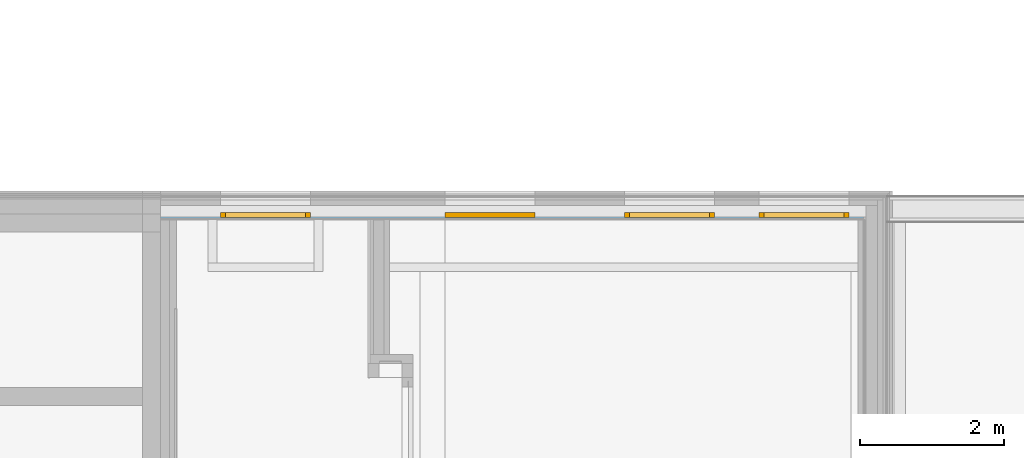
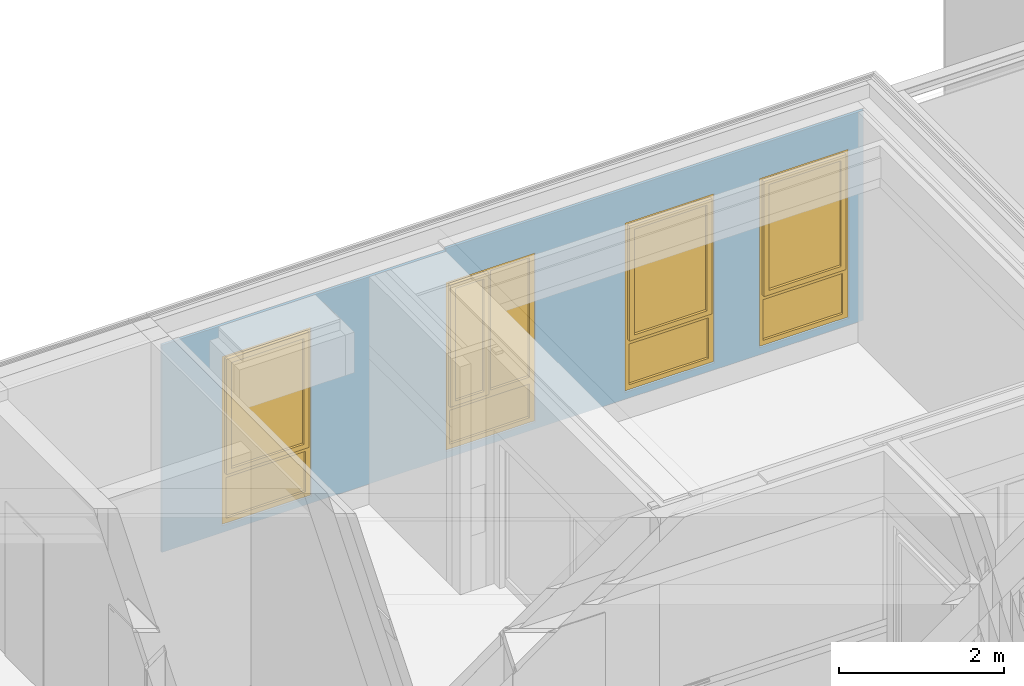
# One storey, part 118 of 207: 4 windows, 4 openings, plus 1 element that does not belong to this part.
"""IFC4 building model written with IfcOpenShell, lengths in metres."""

from ifc_helpers import new_model, entity, si_unit, converted_unit, derived_unit, frame, frame_2d, origin, origin_with_axes, place, context, subcontext, project, spatial, polyline, rectangle, outline, extrude, clip, bounded_halfspace, closed_shell, open_shell, surface_model, source, transform, mapped, material, type_object, element, fill, save


model = new_model("IFC4")

# Units and contexts
model_context = context("Model", 3, precision=1e-05, world=origin())
body_context = subcontext(model_context, "Body", "Model", "MODEL_VIEW")
ifc_project = project(units=[si_unit("LENGTHUNIT", "METRE"), si_unit("AREAUNIT", "SQUARE_METRE"), si_unit("VOLUMEUNIT", "CUBIC_METRE"), si_unit("MASSUNIT", "GRAM", prefix="KILO"), converted_unit("PLANEANGLEUNIT", "DEGREE", entity("IfcPlaneAngleMeasure", 0.0174532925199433), si_unit("PLANEANGLEUNIT", "RADIAN"), dimensions=[0, 0, 0, 0, 0, 0, 0]), derived_unit("THERMALTRANSMITTANCEUNIT", [(si_unit("POWERUNIT", "WATT"), 1), (si_unit("THERMODYNAMICTEMPERATUREUNIT", "KELVIN"), -1), (si_unit("LENGTHUNIT", "METRE"), -2)]), derived_unit("VOLUMETRICFLOWRATEUNIT", [(si_unit("LENGTHUNIT", "METRE"), 3), (converted_unit("TIMEUNIT", "hour", entity("IfcTimeMeasure", 3600.0), si_unit("TIMEUNIT", "SECOND"), dimensions=[0, 0, 1, 0, 0, 0, 0]), -1), (si_unit("LENGTHUNIT", "METRE"), -1)])], contexts=[model_context])

# Site, building, storey
site_placement = place(None, origin())
site = spatial("IfcSite", under=ifc_project, at=site_placement, Name="Psychiatrie Neubau Wunstorf", CompositionType="ELEMENT")
building_placement = place(site_placement, origin())
building = spatial("IfcBuilding", under=site, at=building_placement, Name="Neubau H2 Stationsgebäude", CompositionType="ELEMENT")
storey_placement = place(building_placement, frame((0.0, 0.0, -0.2)))
storey = spatial("IfcBuildingStorey", under=building, at=storey_placement, Name="H2 Ebene 0", CompositionType="ELEMENT", Elevation=-0.2)

# Wall, openings, windows
ifc_material = material(Name="WA-LB")
wall_placement = place(storey_placement, frame((58.1, 29.0639996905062, 0.5)))
wall = element("IfcWall", 1, at=wall_placement, inside=storey, material=ifc_material, context=body_context, shape_type="Clipping", body=[
    clip(extrude(rectangle(XDim=9.78900000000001, YDim=0.036, at=frame_2d((4.8945, 0.018), x_axis=(1.0, 0.0))), origin_with_axes(), (0.0, 0.0, 1.0), 3.1), bounded_halfspace(frame((1.98125000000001, 0.018, 3.06), z_axis=(0.0, 0.0, -1.0), x_axis=(-1.0, 0.0, 0.0)), True, origin_with_axes(), polyline([(3.96250000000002, 0.036), (0.0, 0.036), (0.0, 0.0), (3.96250000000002, 0.0), (3.96250000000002, 0.036)]))),
])
opening_1_placement = place(wall_placement, frame((9.58750000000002, 0.036, 0.1), z_axis=(0.0, -1.0, 0.0), x_axis=(0.0, 0.0, 1.0)))
opening_1 = element("IfcOpeningElement", 2, at=opening_1_placement, cuts=wall, Name="Fensteröffnung", ObjectType="Opening", context=body_context, shape_type="SweptSolid", body=[
    extrude(outline(polyline([(2.5, 1.25), (2.5, 0.0), (0.0, 0.0), (0.0, 1.25), (2.5, 1.25)])), origin_with_axes(), (0.0, 0.0, 1.0), 0.036),
])
opening_2_placement = place(wall_placement, frame((5.21250000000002, 0.036, 0.1), z_axis=(0.0, -1.0, 0.0), x_axis=(0.0, 0.0, 1.0)))
opening_2 = element("IfcOpeningElement", 3, at=opening_2_placement, cuts=wall, Name="Fensteröffnung", ObjectType="Opening", context=body_context, shape_type="SweptSolid", body=[
    extrude(outline(polyline([(2.5, 1.25), (2.5, 0.0), (0.0, 0.0), (0.0, 1.25), (2.5, 1.25)])), origin_with_axes(), (0.0, 0.0, 1.0), 0.036),
])
opening_3_placement = place(wall_placement, frame((2.08750000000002, 0.036, 0.1), z_axis=(0.0, -1.0, 0.0), x_axis=(0.0, 0.0, 1.0)))
opening_3 = element("IfcOpeningElement", 4, at=opening_3_placement, cuts=wall, Name="Fensteröffnung", ObjectType="Opening", context=body_context, shape_type="SweptSolid", body=[
    extrude(outline(polyline([(2.5, 1.25), (2.5, 0.0), (0.0, 0.0), (0.0, 1.25), (2.5, 1.25)])), origin_with_axes(), (0.0, 0.0, 1.0), 0.036),
])
opening_4_placement = place(wall_placement, frame((7.71250000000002, 0.036, 0.1), z_axis=(0.0, -1.0, 0.0), x_axis=(0.0, 0.0, 1.0)))
opening_4 = element("IfcOpeningElement", 5, at=opening_4_placement, cuts=wall, Name="Fensteröffnung", ObjectType="Opening", context=body_context, shape_type="SweptSolid", body=[
    extrude(outline(polyline([(2.5, 1.25), (2.5, 0.0), (0.0, 0.0), (0.0, 1.25), (2.5, 1.25)])), origin_with_axes(), (0.0, 0.0, 1.0), 0.036),
])
window_type_1 = type_object("IfcWindowType", Name="Fenster", ParameterTakesPrecedence=False, PartitioningType="DOUBLE_PANEL_HORIZONTAL", PredefinedType="WINDOW")
shared_shape_1 = source(origin_with_axes(), body_context, "Body", "SurfaceModel", [
    surface_model("IfcShellBasedSurfaceModel", [(1.25, 0.0, 2.5), (1.25, 0.0, 0.0), (1.18, 0.0, 0.0), (1.18, 0.0, 2.5), (1.25, 0.0699999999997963, 0.0), (1.25, 0.0699999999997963, 2.5), (1.18, 0.0699999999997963, 2.5), (1.18, 0.0699999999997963, 0.0)], [closed_shell([[[0, 1, 2, 3]], [[4, 5, 6, 7]], [[1, 0, 5, 4]], [[2, 1, 4, 7]], [[3, 2, 7, 6]], [[0, 3, 6, 5]]], orient=[[False], [False], [False], [False], [False], [False]])]),
    surface_model("IfcShellBasedSurfaceModel", [(0.07, 0.0, 2.5), (0.07, 0.0, 0.0), (0.0, 0.0, 0.0), (0.0, 0.0, 2.5), (0.07, 0.0699999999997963, 0.0), (0.07, 0.0699999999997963, 2.5), (0.0, 0.0699999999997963, 2.5), (0.0, 0.0699999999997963, 0.0)], [closed_shell([[[0, 1, 2, 3]], [[4, 5, 6, 7]], [[1, 0, 5, 4]], [[2, 1, 4, 7]], [[3, 2, 7, 6]], [[0, 3, 6, 5]]], orient=[[False], [False], [False], [False], [False], [False]])]),
    surface_model("IfcShellBasedSurfaceModel", [(1.18, 0.0, 0.07), (1.18, 0.0, 0.0), (0.07, 0.0, 0.0), (0.07, 0.0, 0.07), (1.18, 0.0699999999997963, 0.0), (1.18, 0.0699999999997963, 0.07), (0.07, 0.0699999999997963, 0.07), (0.07, 0.0699999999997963, 0.0)], [closed_shell([[[0, 1, 2, 3]], [[4, 5, 6, 7]], [[1, 0, 5, 4]], [[2, 1, 4, 7]], [[3, 2, 7, 6]], [[0, 3, 6, 5]]], orient=[[False], [False], [False], [False], [False], [False]])]),
    surface_model("IfcShellBasedSurfaceModel", [(1.18, 0.0, 2.5), (1.18, 0.0, 2.43), (0.07, 0.0, 2.43), (0.07, 0.0, 2.5), (1.18, 0.0699999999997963, 2.43), (1.18, 0.0699999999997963, 2.5), (0.07, 0.0699999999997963, 2.5), (0.07, 0.0699999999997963, 2.43)], [closed_shell([[[0, 1, 2, 3]], [[4, 5, 6, 7]], [[1, 0, 5, 4]], [[2, 1, 4, 7]], [[3, 2, 7, 6]], [[0, 3, 6, 5]]], orient=[[False], [False], [False], [False], [False], [False]])]),
    surface_model("IfcShellBasedSurfaceModel", [(1.18, 0.0, 0.77), (1.18, 0.0, 0.67), (0.07, 0.0, 0.67), (0.07, 0.0, 0.77), (1.18, 0.0699999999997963, 0.67), (1.18, 0.0699999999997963, 0.77), (0.07, 0.0699999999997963, 0.77), (0.07, 0.0699999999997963, 0.67)], [closed_shell([[[0, 1, 2, 3]], [[4, 5, 6, 7]], [[1, 0, 5, 4]], [[2, 1, 4, 7]], [[3, 2, 7, 6]], [[0, 3, 6, 5]]], orient=[[False], [False], [False], [False], [False], [False]])]),
    surface_model("IfcShellBasedSurfaceModel", [(1.18, 0.0349999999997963, 0.07), (0.07, 0.0349999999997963, 0.07), (0.07, 0.0349999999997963, 0.67), (1.18, 0.0349999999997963, 0.67)], [open_shell([[[0, 1, 2, 3]]], orient=[[False]])]),
    surface_model("IfcShellBasedSurfaceModel", [(1.2, 0.0499999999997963, 2.45), (1.2, 0.0499999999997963, 0.75), (1.13, 0.0499999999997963, 0.75), (1.13, 0.0499999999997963, 2.45), (1.2, 0.119999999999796, 0.75), (1.2, 0.119999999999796, 2.45), (1.13, 0.119999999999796, 2.45), (1.13, 0.119999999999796, 0.75)], [closed_shell([[[0, 1, 2, 3]], [[4, 5, 6, 7]], [[1, 0, 5, 4]], [[2, 1, 4, 7]], [[3, 2, 7, 6]], [[0, 3, 6, 5]]], orient=[[False], [False], [False], [False], [False], [False]])]),
    surface_model("IfcShellBasedSurfaceModel", [(0.12, 0.0499999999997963, 2.45), (0.12, 0.0499999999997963, 0.75), (0.05, 0.0499999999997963, 0.75), (0.05, 0.0499999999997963, 2.45), (0.12, 0.119999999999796, 0.75), (0.12, 0.119999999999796, 2.45), (0.05, 0.119999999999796, 2.45), (0.05, 0.119999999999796, 0.75)], [closed_shell([[[0, 1, 2, 3]], [[4, 5, 6, 7]], [[1, 0, 5, 4]], [[2, 1, 4, 7]], [[3, 2, 7, 6]], [[0, 3, 6, 5]]], orient=[[False], [False], [False], [False], [False], [False]])]),
    surface_model("IfcShellBasedSurfaceModel", [(1.13, 0.0499999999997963, 0.82), (1.13, 0.0499999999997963, 0.75), (0.12, 0.0499999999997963, 0.75), (0.12, 0.0499999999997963, 0.82), (1.13, 0.119999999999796, 0.75), (1.13, 0.119999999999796, 0.82), (0.12, 0.119999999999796, 0.82), (0.12, 0.119999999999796, 0.75)], [closed_shell([[[0, 1, 2, 3]], [[4, 5, 6, 7]], [[1, 0, 5, 4]], [[2, 1, 4, 7]], [[3, 2, 7, 6]], [[0, 3, 6, 5]]], orient=[[False], [False], [False], [False], [False], [False]])]),
    surface_model("IfcShellBasedSurfaceModel", [(1.13, 0.0499999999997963, 2.45), (1.13, 0.0499999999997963, 2.38), (0.12, 0.0499999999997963, 2.38), (0.12, 0.0499999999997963, 2.45), (1.13, 0.119999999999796, 2.38), (1.13, 0.119999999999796, 2.45), (0.12, 0.119999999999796, 2.45), (0.12, 0.119999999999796, 2.38)], [closed_shell([[[0, 1, 2, 3]], [[4, 5, 6, 7]], [[1, 0, 5, 4]], [[2, 1, 4, 7]], [[3, 2, 7, 6]], [[0, 3, 6, 5]]], orient=[[False], [False], [False], [False], [False], [False]])]),
    surface_model("IfcShellBasedSurfaceModel", [(1.13, 0.0849999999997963, 0.82), (0.12, 0.0849999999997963, 0.82), (0.12, 0.0849999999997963, 2.38), (1.13, 0.0849999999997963, 2.38)], [open_shell([[[0, 1, 2, 3]]], orient=[[False]])]),
])
window_1_placement = place(opening_1_placement, frame((0.0, 0.0, -0.064), z_axis=(1.0, 0.0, 0.0), x_axis=(0.0, 1.0, 0.0)))
window_1 = element("IfcWindow", 6, at=window_1_placement, inside=storey, type_object=window_type_1, Name="Fenster", OverallHeight=2.5, OverallWidth=1.25, context=body_context, shape_type="MappedRepresentation", body=[
    mapped(shared_shape_1, transform((0.0, 0.0, 0.0), x_axis=(1.0, 0.0, 0.0), y_axis=(0.0, 1.0, 0.0), z_axis=(0.0, 0.0, 1.0), scale=1.0)),
])
fill(opening_1, window_1)
shared_shape_2 = source(origin_with_axes(), body_context, "Body", "SurfaceModel", [
    surface_model("IfcShellBasedSurfaceModel", [(0.0, 0.0, 2.5), (0.07, 0.0, 2.5), (0.07, 0.0, 0.0), (0.0, 0.0, 0.0), (0.0, 0.0700000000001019, 0.0), (0.07, 0.0700000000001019, 0.0), (0.07, 0.0700000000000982, 2.5), (0.0, 0.0700000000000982, 2.5)], [closed_shell([[[0, 1, 2, 3]], [[4, 5, 6, 7]], [[3, 4, 7, 0]], [[2, 5, 4, 3]], [[1, 6, 5, 2]], [[0, 7, 6, 1]]], orient=[[False], [False], [False], [False], [False], [False]])]),
    surface_model("IfcShellBasedSurfaceModel", [(1.17999999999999, 0.0, 2.5), (1.24999999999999, 0.0, 2.5), (1.24999999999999, 0.0, 0.0), (1.17999999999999, 0.0, 0.0), (1.17999999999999, 0.0700000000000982, 0.0), (1.24999999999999, 0.0700000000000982, 0.0), (1.24999999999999, 0.0700000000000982, 2.5), (1.17999999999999, 0.0700000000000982, 2.5)], [closed_shell([[[0, 1, 2, 3]], [[4, 5, 6, 7]], [[3, 4, 7, 0]], [[2, 5, 4, 3]], [[1, 6, 5, 2]], [[0, 7, 6, 1]]], orient=[[False], [False], [False], [False], [False], [False]])]),
    surface_model("IfcShellBasedSurfaceModel", [(0.07, 0.0, 0.07), (1.17999999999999, 0.0, 0.07), (1.17999999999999, 0.0, 0.0), (0.07, 0.0, 0.0), (0.07, 0.0700000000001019, 0.0), (1.17999999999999, 0.0700000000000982, 0.0), (1.17999999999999, 0.0700000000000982, 0.07), (0.07, 0.0700000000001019, 0.07)], [closed_shell([[[0, 1, 2, 3]], [[4, 5, 6, 7]], [[3, 4, 7, 0]], [[2, 5, 4, 3]], [[1, 6, 5, 2]], [[0, 7, 6, 1]]], orient=[[False], [False], [False], [False], [False], [False]])]),
    surface_model("IfcShellBasedSurfaceModel", [(0.07, 0.0, 2.5), (1.17999999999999, 0.0, 2.5), (1.17999999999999, 0.0, 2.43), (0.07, 0.0, 2.43), (0.07, 0.0700000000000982, 2.43), (1.17999999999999, 0.0700000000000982, 2.43), (1.17999999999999, 0.0700000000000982, 2.5), (0.07, 0.0700000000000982, 2.5)], [closed_shell([[[0, 1, 2, 3]], [[4, 5, 6, 7]], [[3, 4, 7, 0]], [[2, 5, 4, 3]], [[1, 6, 5, 2]], [[0, 7, 6, 1]]], orient=[[False], [False], [False], [False], [False], [False]])]),
    surface_model("IfcShellBasedSurfaceModel", [(0.07, 0.0, 0.67), (1.17999999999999, 0.0, 0.67), (1.17999999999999, 0.0, 0.57), (0.07, 0.0, 0.57), (0.07, 0.0700000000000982, 0.57), (1.17999999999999, 0.0700000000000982, 0.57), (1.17999999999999, 0.0700000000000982, 0.67), (0.07, 0.0700000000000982, 0.67)], [closed_shell([[[0, 1, 2, 3]], [[4, 5, 6, 7]], [[3, 4, 7, 0]], [[2, 5, 4, 3]], [[1, 6, 5, 2]], [[0, 7, 6, 1]]], orient=[[False], [False], [False], [False], [False], [False]])]),
    surface_model("IfcShellBasedSurfaceModel", [(0.07, 0.0350000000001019, 0.07), (0.07, 0.0350000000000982, 0.57), (1.17999999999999, 0.0350000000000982, 0.57), (1.17999999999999, 0.0350000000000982, 0.07)], [open_shell([[[0, 1, 2, 3]]], orient=[[False]])]),
    surface_model("IfcShellBasedSurfaceModel", [(0.57, 0.0, 2.43), (0.64, 0.0, 2.43), (0.64, 0.0, 0.67), (0.57, 0.0, 0.67), (0.57, 0.0700000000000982, 0.67), (0.64, 0.0700000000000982, 0.67), (0.64, 0.0700000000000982, 2.43), (0.57, 0.0700000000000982, 2.43)], [closed_shell([[[0, 1, 2, 3]], [[4, 5, 6, 7]], [[3, 4, 7, 0]], [[2, 5, 4, 3]], [[1, 6, 5, 2]], [[0, 7, 6, 1]]], orient=[[False], [False], [False], [False], [False], [False]])]),
    surface_model("IfcShellBasedSurfaceModel", [(0.05, -0.0499999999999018, 2.45), (0.12, -0.0499999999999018, 2.45), (0.12, -0.0499999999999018, 0.65), (0.05, -0.0499999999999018, 0.65), (0.05, 0.0200000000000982, 0.65), (0.12, 0.0200000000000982, 0.65), (0.12, 0.0200000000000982, 2.45), (0.05, 0.0200000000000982, 2.45)], [closed_shell([[[0, 1, 2, 3]], [[4, 5, 6, 7]], [[3, 4, 7, 0]], [[2, 5, 4, 3]], [[1, 6, 5, 2]], [[0, 7, 6, 1]]], orient=[[False], [False], [False], [False], [False], [False]])]),
    surface_model("IfcShellBasedSurfaceModel", [(0.52, -0.0499999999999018, 2.45), (0.59, -0.0499999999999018, 2.45), (0.59, -0.0499999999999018, 0.65), (0.52, -0.0499999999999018, 0.65), (0.52, 0.0200000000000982, 0.65), (0.59, 0.0200000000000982, 0.65), (0.59, 0.0200000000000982, 2.45), (0.52, 0.0200000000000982, 2.45)], [closed_shell([[[0, 1, 2, 3]], [[4, 5, 6, 7]], [[3, 4, 7, 0]], [[2, 5, 4, 3]], [[1, 6, 5, 2]], [[0, 7, 6, 1]]], orient=[[False], [False], [False], [False], [False], [False]])]),
    surface_model("IfcShellBasedSurfaceModel", [(0.12, -0.0499999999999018, 0.72), (0.52, -0.0499999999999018, 0.72), (0.52, -0.0499999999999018, 0.65), (0.12, -0.0499999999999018, 0.65), (0.12, 0.0200000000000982, 0.65), (0.52, 0.0200000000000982, 0.65), (0.52, 0.0200000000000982, 0.72), (0.12, 0.0200000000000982, 0.72)], [closed_shell([[[0, 1, 2, 3]], [[4, 5, 6, 7]], [[3, 4, 7, 0]], [[2, 5, 4, 3]], [[1, 6, 5, 2]], [[0, 7, 6, 1]]], orient=[[False], [False], [False], [False], [False], [False]])]),
    surface_model("IfcShellBasedSurfaceModel", [(0.12, -0.0499999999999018, 2.45), (0.52, -0.0499999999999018, 2.45), (0.52, -0.0499999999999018, 2.38), (0.12, -0.0499999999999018, 2.38), (0.12, 0.0200000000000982, 2.38), (0.52, 0.0200000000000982, 2.38), (0.52, 0.0200000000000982, 2.45), (0.12, 0.0200000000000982, 2.45)], [closed_shell([[[0, 1, 2, 3]], [[4, 5, 6, 7]], [[3, 4, 7, 0]], [[2, 5, 4, 3]], [[1, 6, 5, 2]], [[0, 7, 6, 1]]], orient=[[False], [False], [False], [False], [False], [False]])]),
    surface_model("IfcShellBasedSurfaceModel", [(0.64, 0.0350000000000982, 0.67), (0.64, 0.0350000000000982, 2.43), (1.17999999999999, 0.0350000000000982, 2.43), (1.17999999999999, 0.0350000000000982, 0.67)], [open_shell([[[0, 1, 2, 3]]], orient=[[False]])]),
    surface_model("IfcShellBasedSurfaceModel", [(0.12, -0.0149999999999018, 0.72), (0.12, -0.0149999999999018, 2.38), (0.52, -0.0149999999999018, 2.38), (0.52, -0.0149999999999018, 0.72)], [open_shell([[[0, 1, 2, 3]]], orient=[[False]])]),
])
window_2_placement = place(opening_2_placement, frame((0.0, 1.25, 0.006), z_axis=(1.0, 0.0, 0.0), x_axis=(0.0, -1.0, 0.0)))
window_2 = element("IfcWindow", 7, at=window_2_placement, inside=storey, Name="Fenster", OverallHeight=2.5, OverallWidth=1.25, PartitioningType="USERDEFINED", PredefinedType="WINDOW", context=body_context, shape_type="MappedRepresentation", body=[
    mapped(shared_shape_2, transform((0.0, 0.0, 0.0), x_axis=(1.0, 0.0, 0.0), y_axis=(0.0, 1.0, 0.0), z_axis=(0.0, 0.0, 1.0), scale=1.0)),
])
fill(opening_2, window_2)
window_type_2 = type_object("IfcWindowType", Name="Fenster", ParameterTakesPrecedence=False, PartitioningType="DOUBLE_PANEL_HORIZONTAL", PredefinedType="WINDOW")
shared_shape_3 = source(origin_with_axes(), body_context, "Body", "SurfaceModel", [
    surface_model("IfcShellBasedSurfaceModel", [(1.25, 0.0, 2.5), (1.25, 0.0, 0.0), (1.18, 0.0, 0.0), (1.18, 0.0, 2.5), (1.25, 0.0699999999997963, 0.0), (1.25, 0.0699999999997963, 2.5), (1.18, 0.0699999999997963, 2.5), (1.18, 0.0699999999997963, 0.0)], [closed_shell([[[0, 1, 2, 3]], [[4, 5, 6, 7]], [[1, 0, 5, 4]], [[2, 1, 4, 7]], [[3, 2, 7, 6]], [[0, 3, 6, 5]]], orient=[[False], [False], [False], [False], [False], [False]])]),
    surface_model("IfcShellBasedSurfaceModel", [(0.07, 0.0, 2.5), (0.07, 0.0, 0.0), (0.0, 0.0, 0.0), (0.0, 0.0, 2.5), (0.07, 0.0699999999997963, 0.0), (0.07, 0.0699999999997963, 2.5), (0.0, 0.0699999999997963, 2.5), (0.0, 0.0699999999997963, 0.0)], [closed_shell([[[0, 1, 2, 3]], [[4, 5, 6, 7]], [[1, 0, 5, 4]], [[2, 1, 4, 7]], [[3, 2, 7, 6]], [[0, 3, 6, 5]]], orient=[[False], [False], [False], [False], [False], [False]])]),
    surface_model("IfcShellBasedSurfaceModel", [(1.18, 0.0, 0.07), (1.18, 0.0, 0.0), (0.07, 0.0, 0.0), (0.07, 0.0, 0.07), (1.18, 0.0699999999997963, 0.0), (1.18, 0.0699999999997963, 0.07), (0.07, 0.0699999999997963, 0.07), (0.07, 0.0699999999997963, 0.0)], [closed_shell([[[0, 1, 2, 3]], [[4, 5, 6, 7]], [[1, 0, 5, 4]], [[2, 1, 4, 7]], [[3, 2, 7, 6]], [[0, 3, 6, 5]]], orient=[[False], [False], [False], [False], [False], [False]])]),
    surface_model("IfcShellBasedSurfaceModel", [(1.18, 0.0, 2.5), (1.18, 0.0, 2.43), (0.07, 0.0, 2.43), (0.07, 0.0, 2.5), (1.18, 0.0699999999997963, 2.43), (1.18, 0.0699999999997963, 2.5), (0.07, 0.0699999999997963, 2.5), (0.07, 0.0699999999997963, 2.43)], [closed_shell([[[0, 1, 2, 3]], [[4, 5, 6, 7]], [[1, 0, 5, 4]], [[2, 1, 4, 7]], [[3, 2, 7, 6]], [[0, 3, 6, 5]]], orient=[[False], [False], [False], [False], [False], [False]])]),
    surface_model("IfcShellBasedSurfaceModel", [(1.18, 0.0, 0.77), (1.18, 0.0, 0.67), (0.07, 0.0, 0.67), (0.07, 0.0, 0.77), (1.18, 0.0699999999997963, 0.67), (1.18, 0.0699999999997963, 0.77), (0.07, 0.0699999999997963, 0.77), (0.07, 0.0699999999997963, 0.67)], [closed_shell([[[0, 1, 2, 3]], [[4, 5, 6, 7]], [[1, 0, 5, 4]], [[2, 1, 4, 7]], [[3, 2, 7, 6]], [[0, 3, 6, 5]]], orient=[[False], [False], [False], [False], [False], [False]])]),
    surface_model("IfcShellBasedSurfaceModel", [(1.18, 0.0349999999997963, 0.07), (0.07, 0.0349999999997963, 0.07), (0.07, 0.0349999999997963, 0.67), (1.18, 0.0349999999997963, 0.67)], [open_shell([[[0, 1, 2, 3]]], orient=[[False]])]),
    surface_model("IfcShellBasedSurfaceModel", [(1.2, 0.0499999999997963, 2.45), (1.2, 0.0499999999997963, 0.75), (1.13, 0.0499999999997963, 0.75), (1.13, 0.0499999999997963, 2.45), (1.2, 0.119999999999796, 0.75), (1.2, 0.119999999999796, 2.45), (1.13, 0.119999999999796, 2.45), (1.13, 0.119999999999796, 0.75)], [closed_shell([[[0, 1, 2, 3]], [[4, 5, 6, 7]], [[1, 0, 5, 4]], [[2, 1, 4, 7]], [[3, 2, 7, 6]], [[0, 3, 6, 5]]], orient=[[False], [False], [False], [False], [False], [False]])]),
    surface_model("IfcShellBasedSurfaceModel", [(0.12, 0.0499999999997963, 2.45), (0.12, 0.0499999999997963, 0.75), (0.05, 0.0499999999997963, 0.75), (0.05, 0.0499999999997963, 2.45), (0.12, 0.119999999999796, 0.75), (0.12, 0.119999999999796, 2.45), (0.05, 0.119999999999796, 2.45), (0.05, 0.119999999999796, 0.75)], [closed_shell([[[0, 1, 2, 3]], [[4, 5, 6, 7]], [[1, 0, 5, 4]], [[2, 1, 4, 7]], [[3, 2, 7, 6]], [[0, 3, 6, 5]]], orient=[[False], [False], [False], [False], [False], [False]])]),
    surface_model("IfcShellBasedSurfaceModel", [(1.13, 0.0499999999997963, 0.82), (1.13, 0.0499999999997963, 0.75), (0.12, 0.0499999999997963, 0.75), (0.12, 0.0499999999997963, 0.82), (1.13, 0.119999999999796, 0.75), (1.13, 0.119999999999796, 0.82), (0.12, 0.119999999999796, 0.82), (0.12, 0.119999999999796, 0.75)], [closed_shell([[[0, 1, 2, 3]], [[4, 5, 6, 7]], [[1, 0, 5, 4]], [[2, 1, 4, 7]], [[3, 2, 7, 6]], [[0, 3, 6, 5]]], orient=[[False], [False], [False], [False], [False], [False]])]),
    surface_model("IfcShellBasedSurfaceModel", [(1.13, 0.0499999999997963, 2.45), (1.13, 0.0499999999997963, 2.38), (0.12, 0.0499999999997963, 2.38), (0.12, 0.0499999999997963, 2.45), (1.13, 0.119999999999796, 2.38), (1.13, 0.119999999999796, 2.45), (0.12, 0.119999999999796, 2.45), (0.12, 0.119999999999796, 2.38)], [closed_shell([[[0, 1, 2, 3]], [[4, 5, 6, 7]], [[1, 0, 5, 4]], [[2, 1, 4, 7]], [[3, 2, 7, 6]], [[0, 3, 6, 5]]], orient=[[False], [False], [False], [False], [False], [False]])]),
    surface_model("IfcShellBasedSurfaceModel", [(1.13, 0.0849999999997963, 0.82), (0.12, 0.0849999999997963, 0.82), (0.12, 0.0849999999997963, 2.38), (1.13, 0.0849999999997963, 2.38)], [open_shell([[[0, 1, 2, 3]]], orient=[[False]])]),
])
window_3_placement = place(opening_3_placement, frame((0.0, 0.0, -0.064), z_axis=(1.0, 0.0, 0.0), x_axis=(0.0, 1.0, 0.0)))
window_3 = element("IfcWindow", 8, at=window_3_placement, inside=storey, type_object=window_type_2, Name="Fenster", OverallHeight=2.5, OverallWidth=1.25, context=body_context, shape_type="MappedRepresentation", body=[
    mapped(shared_shape_3, transform((0.0, 0.0, 0.0), x_axis=(1.0, 0.0, 0.0), y_axis=(0.0, 1.0, 0.0), z_axis=(0.0, 0.0, 1.0), scale=1.0)),
])
fill(opening_3, window_3)
window_type_3 = type_object("IfcWindowType", Name="Fenster", ParameterTakesPrecedence=False, PartitioningType="DOUBLE_PANEL_HORIZONTAL", PredefinedType="WINDOW")
shared_shape_4 = source(origin_with_axes(), body_context, "Body", "SurfaceModel", [
    surface_model("IfcShellBasedSurfaceModel", [(0.0, 0.07, 2.5), (0.0, 0.07, 0.0), (0.07, 0.07, 0.0), (0.07, 0.07, 2.5), (0.0, 0.0, 0.0), (0.0, 0.0, 2.5), (0.07, 0.0, 2.5), (0.07, 0.0, 0.0)], [closed_shell([[[0, 1, 2, 3]], [[4, 5, 6, 7]], [[1, 0, 5, 4]], [[2, 1, 4, 7]], [[3, 2, 7, 6]], [[0, 3, 6, 5]]], orient=[[False], [False], [False], [False], [False], [False]])]),
    surface_model("IfcShellBasedSurfaceModel", [(1.18, 0.07, 2.5), (1.18, 0.07, 0.0), (1.25, 0.07, 0.0), (1.25, 0.07, 2.5), (1.18, 0.0, 0.0), (1.18, 0.0, 2.5), (1.25, 0.0, 2.5), (1.25, 0.0, 0.0)], [closed_shell([[[0, 1, 2, 3]], [[4, 5, 6, 7]], [[1, 0, 5, 4]], [[2, 1, 4, 7]], [[3, 2, 7, 6]], [[0, 3, 6, 5]]], orient=[[False], [False], [False], [False], [False], [False]])]),
    surface_model("IfcShellBasedSurfaceModel", [(0.07, 0.07, 0.07), (0.07, 0.07, 0.0), (1.18, 0.07, 0.0), (1.18, 0.07, 0.07), (0.07, 0.0, 0.0), (0.07, 0.0, 0.07), (1.18, 0.0, 0.07), (1.18, 0.0, 0.0)], [closed_shell([[[0, 1, 2, 3]], [[4, 5, 6, 7]], [[1, 0, 5, 4]], [[2, 1, 4, 7]], [[3, 2, 7, 6]], [[0, 3, 6, 5]]], orient=[[False], [False], [False], [False], [False], [False]])]),
    surface_model("IfcShellBasedSurfaceModel", [(0.07, 0.07, 2.5), (0.07, 0.07, 2.43), (1.18, 0.07, 2.43), (1.18, 0.07, 2.5), (0.07, 0.0, 2.43), (0.07, 0.0, 2.5), (1.18, 0.0, 2.5), (1.18, 0.0, 2.43)], [closed_shell([[[0, 1, 2, 3]], [[4, 5, 6, 7]], [[1, 0, 5, 4]], [[2, 1, 4, 7]], [[3, 2, 7, 6]], [[0, 3, 6, 5]]], orient=[[False], [False], [False], [False], [False], [False]])]),
    surface_model("IfcShellBasedSurfaceModel", [(0.07, 0.07, 0.77), (0.07, 0.07, 0.67), (1.18, 0.07, 0.67), (1.18, 0.07, 0.77), (0.07, 0.0, 0.67), (0.07, 0.0, 0.77), (1.18, 0.0, 0.77), (1.18, 0.0, 0.67)], [closed_shell([[[0, 1, 2, 3]], [[4, 5, 6, 7]], [[1, 0, 5, 4]], [[2, 1, 4, 7]], [[3, 2, 7, 6]], [[0, 3, 6, 5]]], orient=[[False], [False], [False], [False], [False], [False]])]),
    surface_model("IfcShellBasedSurfaceModel", [(0.07, 0.035, 0.07), (1.18, 0.035, 0.07), (1.18, 0.035, 0.67), (0.07, 0.035, 0.67)], [open_shell([[[0, 1, 2, 3]]], orient=[[False]])]),
    surface_model("IfcShellBasedSurfaceModel", [(0.05, 0.12, 2.45), (0.05, 0.12, 0.75), (0.12, 0.12, 0.75), (0.12, 0.12, 2.45), (0.05, 0.05, 0.75), (0.05, 0.05, 2.45), (0.12, 0.05, 2.45), (0.12, 0.05, 0.75)], [closed_shell([[[0, 1, 2, 3]], [[4, 5, 6, 7]], [[1, 0, 5, 4]], [[2, 1, 4, 7]], [[3, 2, 7, 6]], [[0, 3, 6, 5]]], orient=[[False], [False], [False], [False], [False], [False]])]),
    surface_model("IfcShellBasedSurfaceModel", [(1.13, 0.12, 2.45), (1.13, 0.12, 0.75), (1.2, 0.12, 0.75), (1.2, 0.12, 2.45), (1.13, 0.05, 0.75), (1.13, 0.05, 2.45), (1.2, 0.05, 2.45), (1.2, 0.05, 0.75)], [closed_shell([[[0, 1, 2, 3]], [[4, 5, 6, 7]], [[1, 0, 5, 4]], [[2, 1, 4, 7]], [[3, 2, 7, 6]], [[0, 3, 6, 5]]], orient=[[False], [False], [False], [False], [False], [False]])]),
    surface_model("IfcShellBasedSurfaceModel", [(0.12, 0.12, 0.82), (0.12, 0.12, 0.75), (1.13, 0.12, 0.75), (1.13, 0.12, 0.82), (0.12, 0.05, 0.75), (0.12, 0.05, 0.82), (1.13, 0.05, 0.82), (1.13, 0.05, 0.75)], [closed_shell([[[0, 1, 2, 3]], [[4, 5, 6, 7]], [[1, 0, 5, 4]], [[2, 1, 4, 7]], [[3, 2, 7, 6]], [[0, 3, 6, 5]]], orient=[[False], [False], [False], [False], [False], [False]])]),
    surface_model("IfcShellBasedSurfaceModel", [(0.12, 0.12, 2.45), (0.12, 0.12, 2.38), (1.13, 0.12, 2.38), (1.13, 0.12, 2.45), (0.12, 0.05, 2.38), (0.12, 0.05, 2.45), (1.13, 0.05, 2.45), (1.13, 0.05, 2.38)], [closed_shell([[[0, 1, 2, 3]], [[4, 5, 6, 7]], [[1, 0, 5, 4]], [[2, 1, 4, 7]], [[3, 2, 7, 6]], [[0, 3, 6, 5]]], orient=[[False], [False], [False], [False], [False], [False]])]),
    surface_model("IfcShellBasedSurfaceModel", [(0.12, 0.085, 0.82), (1.13, 0.085, 0.82), (1.13, 0.085, 2.38), (0.12, 0.085, 2.38)], [open_shell([[[0, 1, 2, 3]]], orient=[[False]])]),
])
window_4_placement = place(opening_4_placement, frame((0.0, 0.0, -0.064), z_axis=(1.0, 0.0, 0.0), x_axis=(0.0, 1.0, 0.0)))
window_4 = element("IfcWindow", 9, at=window_4_placement, inside=storey, type_object=window_type_3, Name="Fenster", OverallHeight=2.5, OverallWidth=1.25, context=body_context, shape_type="MappedRepresentation", body=[
    mapped(shared_shape_4, transform((0.0, 0.0, 0.0), x_axis=(1.0, 0.0, 0.0), y_axis=(0.0, 1.0, 0.0), z_axis=(0.0, 0.0, 1.0), scale=1.0)),
])
fill(opening_4, window_4)

save(model, "model.ifc")
